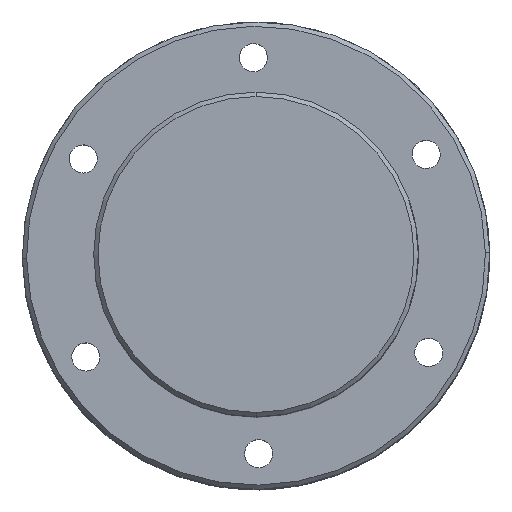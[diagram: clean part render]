
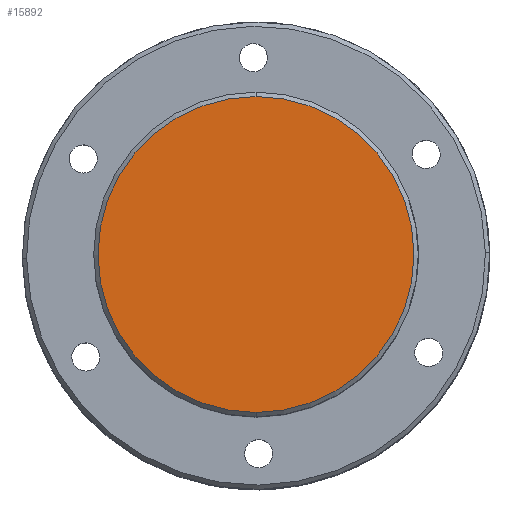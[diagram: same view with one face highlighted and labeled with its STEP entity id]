
A CAD part, top view. The second image highlights one B-rep face of the part: STEP entity #15892.
In plain terms, the highlighted planar face has unit normal (0, 0, 1) as drawn and (-1, 0, 0) by its records, which use the part's own axes.
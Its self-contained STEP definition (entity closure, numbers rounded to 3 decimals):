
#118 = AXIS2_PLACEMENT_3D ( 'NONE', #2938, #2586, #5647 ) ;
#508 = FACE_OUTER_BOUND ( 'NONE', #3018, .T. ) ;
#1156 = VERTEX_POINT ( 'NONE', #6893 ) ;
#1470 = CARTESIAN_POINT ( 'NONE',  ( 0., 0., 0. ) ) ;
#2586 = DIRECTION ( 'NONE',  ( 1., 0., 0. ) ) ;
#2938 = CARTESIAN_POINT ( 'NONE',  ( 0., 0., 0. ) ) ;
#3018 = EDGE_LOOP ( 'NONE', ( #12410, #12478 ) ) ;
#4075 = DIRECTION ( 'NONE',  ( -1., 0., 0. ) ) ;
#4703 = VERTEX_POINT ( 'NONE', #15975 ) ;
#5173 = DIRECTION ( 'NONE',  ( 0., 0., -1. ) ) ;
#5647 = DIRECTION ( 'NONE',  ( 0., 0., -1. ) ) ;
#6893 = CARTESIAN_POINT ( 'NONE',  ( 0., 0., 36.5 ) ) ;
#8139 = DIRECTION ( 'NONE',  ( 0., 0., -1. ) ) ;
#9573 = CIRCLE ( 'NONE', #10964, 36.5 ) ;
#9903 = EDGE_CURVE ( 'NONE', #1156, #4703, #9573, .T. ) ;
#10593 = CIRCLE ( 'NONE', #13434, 36.5 ) ;
#10964 = AXIS2_PLACEMENT_3D ( 'NONE', #15823, #17200, #5173 ) ;
#12410 = ORIENTED_EDGE ( 'NONE', *, *, #14468, .T. ) ;
#12478 = ORIENTED_EDGE ( 'NONE', *, *, #9903, .T. ) ;
#13434 = AXIS2_PLACEMENT_3D ( 'NONE', #1470, #4075, #8139 ) ;
#14468 = EDGE_CURVE ( 'NONE', #4703, #1156, #10593, .T. ) ;
#14618 = PLANE ( 'NONE',  #118 ) ;
#15823 = CARTESIAN_POINT ( 'NONE',  ( 0., 0., 0. ) ) ;
#15892 = ADVANCED_FACE ( 'NONE', ( #508 ), #14618, .F. ) ;
#15975 = CARTESIAN_POINT ( 'NONE',  ( 0., 0., -36.5 ) ) ;
#17200 = DIRECTION ( 'NONE',  ( -1., 0., 0. ) ) ;
